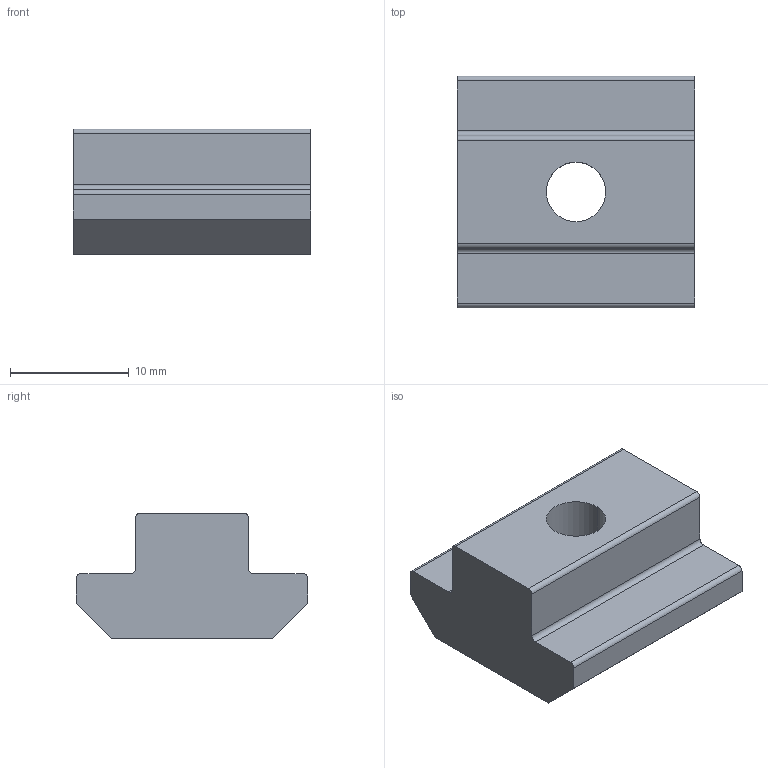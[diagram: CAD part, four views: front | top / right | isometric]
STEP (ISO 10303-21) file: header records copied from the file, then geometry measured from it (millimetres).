
FILE_DESCRIPTION (( 'STEP AP203' ), '1' );
FILE_NAME ('0110NSSM6.STEP', '2024-03-05T13:52:43', ( 'Windows-Benutzer' ), ( '' ), 'SwSTEP 2.0', 'SolidWorks 2023', '' );
FILE_SCHEMA (( 'CONFIG_CONTROL_DESIGN' ));
Length unit declared in the file: millimetre
Products named in the file (1): 0110NSSM6
Bounding box: 20 x 19.5 x 10.6 mm (x, y, z)
Volume: 2724.5 mm3; surface area: 1533.6 mm2
Topology: 1 solids, 1 shells, 20 faces, 54 edges, 36 vertices
Faces by surface type: plane 12, cylinder 8
Entity records: 715 total; most frequent: DIRECTION 112, CARTESIAN_POINT 111, ORIENTED_EDGE 108, EDGE_CURVE 54, LINE 38, VECTOR 38, AXIS2_PLACEMENT_3D 37, VERTEX_POINT 36
